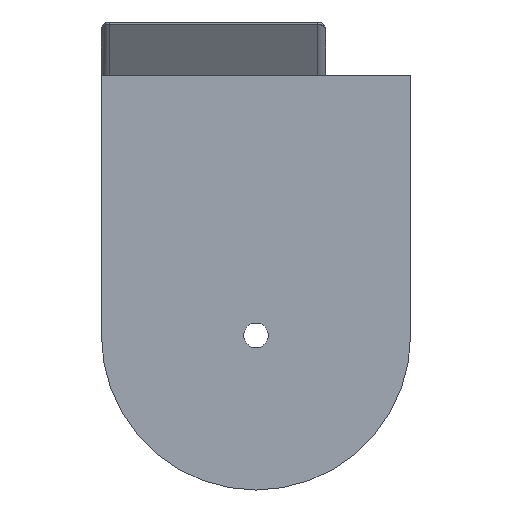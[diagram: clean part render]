
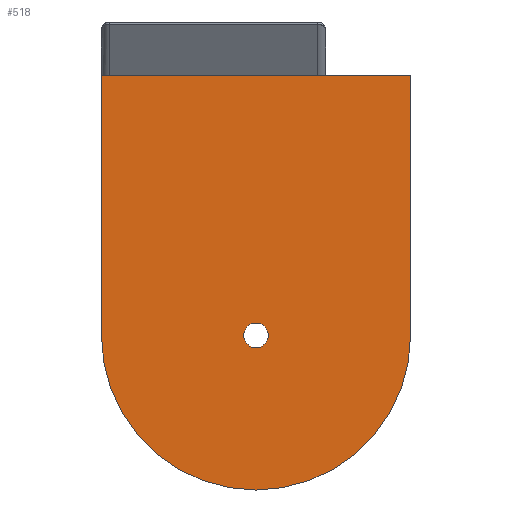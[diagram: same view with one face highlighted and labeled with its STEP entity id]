
A CAD part, front view. The second image highlights one B-rep face of the part: STEP entity #518.
In plain terms, the highlighted planar face has unit normal (0, -1, 0).
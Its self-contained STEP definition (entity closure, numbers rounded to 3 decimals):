
#35=FACE_BOUND('',#95,.T.);
#41=PLANE('',#581);
#60=FACE_OUTER_BOUND('',#94,.T.);
#94=EDGE_LOOP('',(#397,#398,#399,#400));
#95=EDGE_LOOP('',(#401));
#129=LINE('',#811,#176);
#136=LINE('',#835,#183);
#140=LINE('',#844,#187);
#176=VECTOR('',#647,10.);
#183=VECTOR('',#672,10.);
#187=VECTOR('',#682,10.);
#220=CIRCLE('',#580,20.);
#221=CIRCLE('',#582,1.6);
#237=VERTEX_POINT('',#808);
#238=VERTEX_POINT('',#810);
#245=VERTEX_POINT('',#832);
#246=VERTEX_POINT('',#834);
#249=VERTEX_POINT('',#845);
#286=EDGE_CURVE('',#237,#238,#129,.T.);
#298=EDGE_CURVE('',#246,#245,#136,.T.);
#302=EDGE_CURVE('',#238,#245,#220,.T.);
#303=EDGE_CURVE('',#246,#237,#140,.T.);
#304=EDGE_CURVE('',#249,#249,#221,.T.);
#397=ORIENTED_EDGE('',*,*,#302,.F.);
#398=ORIENTED_EDGE('',*,*,#286,.F.);
#399=ORIENTED_EDGE('',*,*,#303,.F.);
#400=ORIENTED_EDGE('',*,*,#298,.T.);
#401=ORIENTED_EDGE('',*,*,#304,.T.);
#518=ADVANCED_FACE('',(#60,#35),#41,.T.);
#580=AXIS2_PLACEMENT_3D('',#842,#678,#679);
#581=AXIS2_PLACEMENT_3D('',#843,#680,#681);
#582=AXIS2_PLACEMENT_3D('',#846,#683,#684);
#647=DIRECTION('',(0.,0.,-1.));
#672=DIRECTION('',(0.,0.,-1.));
#678=DIRECTION('center_axis',(0.,1.,0.));
#679=DIRECTION('ref_axis',(0.661,0.,-0.75));
#680=DIRECTION('center_axis',(0.,-1.,0.));
#681=DIRECTION('ref_axis',(0.,0.,-1.));
#682=DIRECTION('',(1.,0.,0.));
#683=DIRECTION('center_axis',(0.,1.,0.));
#684=DIRECTION('ref_axis',(-1.,0.,0.));
#808=CARTESIAN_POINT('',(40.,-53.5,8.64));
#810=CARTESIAN_POINT('',(40.,-53.5,-25.));
#811=CARTESIAN_POINT('',(40.,-53.5,8.64));
#832=CARTESIAN_POINT('',(0.,-53.5,-25.));
#834=CARTESIAN_POINT('',(0.,-53.5,8.64));
#835=CARTESIAN_POINT('',(0.,-53.5,8.64));
#842=CARTESIAN_POINT('Origin',(20.,-53.5,-25.));
#843=CARTESIAN_POINT('Origin',(0.,-53.5,8.64));
#844=CARTESIAN_POINT('',(0.,-53.5,8.64));
#845=CARTESIAN_POINT('',(21.6,-53.5,-25.));
#846=CARTESIAN_POINT('Origin',(20.,-53.5,-25.));
